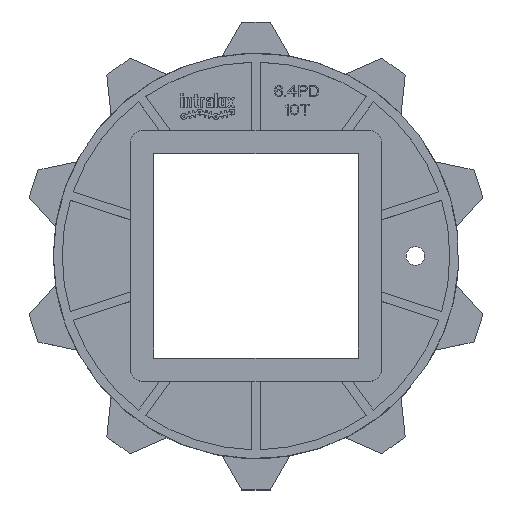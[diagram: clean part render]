
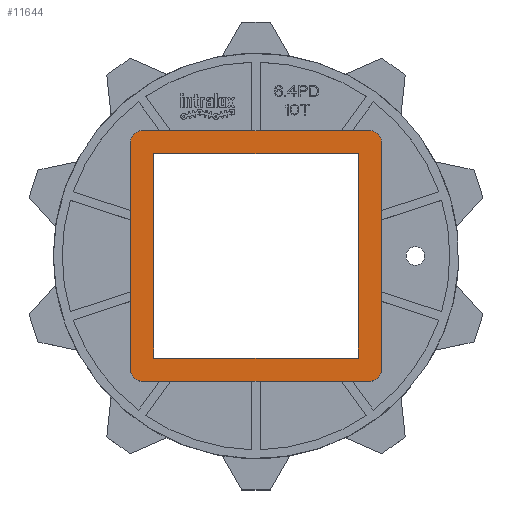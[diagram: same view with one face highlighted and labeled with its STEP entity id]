
A CAD part, top view. The second image highlights one B-rep face of the part: STEP entity #11644.
In plain terms, the highlighted planar face has unit normal (0, 0, 1).
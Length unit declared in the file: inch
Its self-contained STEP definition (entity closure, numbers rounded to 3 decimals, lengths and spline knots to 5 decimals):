
#2818=CARTESIAN_POINT('',(-1.5405,-1.5405,0.745));
#2819=DIRECTION('',(0.,0.,1.));
#2820=DIRECTION('',(-1.,0.,0.));
#2821=AXIS2_PLACEMENT_3D('',#2818,#2819,#2820);
#2823=DIRECTION('',(0.,-1.,0.));
#2824=VECTOR('',#2823,3.081);
#2825=CARTESIAN_POINT('',(-1.6905,1.5405,0.745));
#2826=LINE('',#2825,#2824);
#2827=CARTESIAN_POINT('',(-1.5405,1.5405,0.745));
#2828=DIRECTION('',(0.,0.,1.));
#2829=DIRECTION('',(0.,1.,0.));
#2830=AXIS2_PLACEMENT_3D('',#2827,#2828,#2829);
#2832=DIRECTION('',(-1.,0.,0.));
#2833=VECTOR('',#2832,3.081);
#2834=CARTESIAN_POINT('',(1.5405,1.6905,0.745));
#2835=LINE('',#2834,#2833);
#2836=CARTESIAN_POINT('',(1.5405,1.5405,0.745));
#2837=DIRECTION('',(0.,0.,1.));
#2838=DIRECTION('',(1.,0.,0.));
#2839=AXIS2_PLACEMENT_3D('',#2836,#2837,#2838);
#2841=DIRECTION('',(0.,1.,0.));
#2842=VECTOR('',#2841,3.081);
#2843=CARTESIAN_POINT('',(1.6905,-1.5405,0.745));
#2844=LINE('',#2843,#2842);
#2845=CARTESIAN_POINT('',(1.5405,-1.5405,0.745));
#2846=DIRECTION('',(0.,0.,1.));
#2847=DIRECTION('',(0.,-1.,0.));
#2848=AXIS2_PLACEMENT_3D('',#2845,#2846,#2847);
#2850=DIRECTION('',(1.,0.,0.));
#2851=VECTOR('',#2850,3.081);
#2852=CARTESIAN_POINT('',(-1.5405,-1.6905,0.745));
#2853=LINE('',#2852,#2851);
#2854=DIRECTION('',(0.,-1.,0.));
#2855=VECTOR('',#2854,2.756);
#2856=CARTESIAN_POINT('',(-1.378,1.378,0.745));
#2857=LINE('',#2856,#2855);
#2858=DIRECTION('',(1.,0.,0.));
#2859=VECTOR('',#2858,2.756);
#2860=CARTESIAN_POINT('',(-1.378,-1.378,0.745));
#2861=LINE('',#2860,#2859);
#2862=DIRECTION('',(0.,1.,0.));
#2863=VECTOR('',#2862,2.756);
#2864=CARTESIAN_POINT('',(1.378,-1.378,0.745));
#2865=LINE('',#2864,#2863);
#2866=DIRECTION('',(-1.,0.,0.));
#2867=VECTOR('',#2866,2.756);
#2868=CARTESIAN_POINT('',(1.378,1.378,0.745));
#2869=LINE('',#2868,#2867);
#7277=CARTESIAN_POINT('',(-1.378,1.378,0.745));
#7278=CARTESIAN_POINT('',(-1.378,-1.378,0.745));
#7279=VERTEX_POINT('',#7277);
#7280=VERTEX_POINT('',#7278);
#7281=CARTESIAN_POINT('',(1.378,-1.378,0.745));
#7282=VERTEX_POINT('',#7281);
#7283=CARTESIAN_POINT('',(1.378,1.378,0.745));
#7284=VERTEX_POINT('',#7283);
#8937=CARTESIAN_POINT('',(-1.6905,-1.5405,0.745));
#8938=VERTEX_POINT('',#8937);
#8939=CARTESIAN_POINT('',(-1.5405,-1.6905,0.745));
#8940=VERTEX_POINT('',#8939);
#8949=CARTESIAN_POINT('',(1.5405,-1.6905,0.745));
#8950=VERTEX_POINT('',#8949);
#8951=CARTESIAN_POINT('',(1.6905,-1.5405,0.745));
#8952=VERTEX_POINT('',#8951);
#8961=CARTESIAN_POINT('',(1.6905,1.5405,0.745));
#8963=VERTEX_POINT('',#8961);
#8965=CARTESIAN_POINT('',(1.5405,1.6905,0.745));
#8966=VERTEX_POINT('',#8965);
#8973=CARTESIAN_POINT('',(-1.5405,1.6905,0.745));
#8975=VERTEX_POINT('',#8973);
#8977=CARTESIAN_POINT('',(-1.6905,1.5405,0.745));
#8978=VERTEX_POINT('',#8977);
#11614=CARTESIAN_POINT('',(0.,0.,0.745));
#11615=DIRECTION('',(0.,0.,1.));
#11616=DIRECTION('',(1.,0.,0.));
#11617=AXIS2_PLACEMENT_3D('',#11614,#11615,#11616);
#11618=PLANE('',#11617);
#11619=ORIENTED_EDGE('',*,*,#10171,.F.);
#11620=ORIENTED_EDGE('',*,*,#10128,.F.);
#11622=ORIENTED_EDGE('',*,*,#11621,.F.);
#11624=ORIENTED_EDGE('',*,*,#11623,.F.);
#11626=ORIENTED_EDGE('',*,*,#11625,.F.);
#11628=ORIENTED_EDGE('',*,*,#11627,.F.);
#11630=ORIENTED_EDGE('',*,*,#11629,.F.);
#11631=ORIENTED_EDGE('',*,*,#11555,.F.);
#11632=EDGE_LOOP('',(#11619,#11620,#11622,#11624,#11626,#11628,#11630,#11631));
#11633=FACE_OUTER_BOUND('',#11632,.F.);
#11635=ORIENTED_EDGE('',*,*,#11634,.T.);
#11637=ORIENTED_EDGE('',*,*,#11636,.T.);
#11639=ORIENTED_EDGE('',*,*,#11638,.T.);
#11641=ORIENTED_EDGE('',*,*,#11640,.T.);
#11642=EDGE_LOOP('',(#11635,#11637,#11639,#11641));
#11643=FACE_BOUND('',#11642,.F.);
#11644=ADVANCED_FACE('',(#11633,#11643),#11618,.T.);
#2822=CIRCLE('',#2821,0.15);
#2831=CIRCLE('',#2830,0.15);
#2840=CIRCLE('',#2839,0.15);
#2849=CIRCLE('',#2848,0.15);
#10128=EDGE_CURVE('',#8978,#8938,#2826,.T.);
#10171=EDGE_CURVE('',#8938,#8940,#2822,.T.);
#11555=EDGE_CURVE('',#8940,#8950,#2853,.T.);
#11621=EDGE_CURVE('',#8975,#8978,#2831,.T.);
#11623=EDGE_CURVE('',#8966,#8975,#2835,.T.);
#11625=EDGE_CURVE('',#8963,#8966,#2840,.T.);
#11627=EDGE_CURVE('',#8952,#8963,#2844,.T.);
#11629=EDGE_CURVE('',#8950,#8952,#2849,.T.);
#11634=EDGE_CURVE('',#7279,#7280,#2857,.T.);
#11636=EDGE_CURVE('',#7280,#7282,#2861,.T.);
#11638=EDGE_CURVE('',#7282,#7284,#2865,.T.);
#11640=EDGE_CURVE('',#7284,#7279,#2869,.T.);
